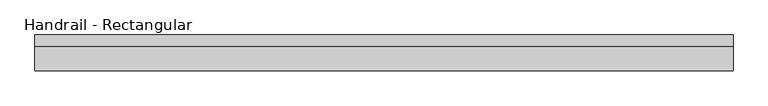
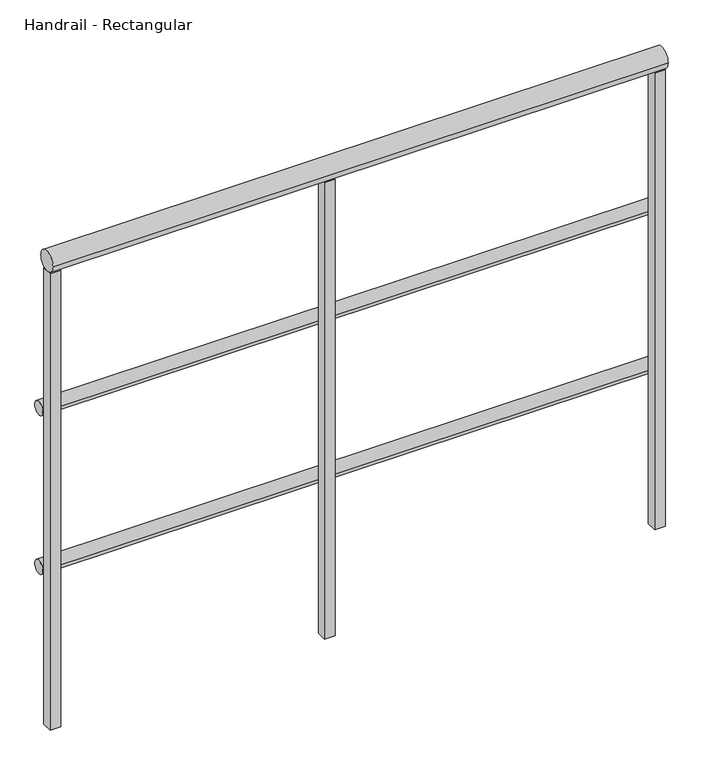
"""IFC4 building model written with IfcOpenShell, lengths in millimetres: railing geometry, Handrail - Rectangular."""

from ifc_helpers import new_model, si_unit, point, frame, frame_2d, origin, place, context, project, spatial, polyline, circle_curve, trimmed, segment, composite_curve, outline, extrude, source, transform, mapped, element, save


def handrail_rectangular_3d0c2979(model_context):
    return source(origin(), model_context, "Body", "SweptSolid", [
        extrude(outline(composite_curve([segment(trimmed(circle_curve(frame_2d((-27958.5683133, 9740.9)), 12.7), [point((-27945.8683133, 9740.9))], [point((-27971.2683133, 9740.9))], False, "CARTESIAN"), True, "CONTINUOUS"), segment(trimmed(circle_curve(frame_2d((-27958.5683133, 9740.9)), 12.7), [point((-27971.2683133, 9740.9))], [point((-27945.8683133, 9740.9))], False, "CARTESIAN"), True, "CONTINUOUS")], self_intersect=False)), frame((976.3410437, 0.0, 0.0), z_axis=(1.0, 0.0, 0.0), x_axis=(0.0, 1.0, 0.0)), (0.0, 0.0, 1.0), 1117.6),
        extrude(outline(composite_curve([segment(trimmed(circle_curve(frame_2d((-27958.5683133, 9436.1)), 12.7), [point((-27945.8683133, 9436.1))], [point((-27971.2683133, 9436.1))], False, "CARTESIAN"), True, "CONTINUOUS"), segment(trimmed(circle_curve(frame_2d((-27958.5683133, 9436.1)), 12.7), [point((-27971.2683133, 9436.1))], [point((-27945.8683133, 9436.1))], False, "CARTESIAN"), True, "CONTINUOUS")], self_intersect=False)), frame((976.3410437, 0.0, 0.0), z_axis=(1.0, 0.0, 0.0), x_axis=(0.0, 1.0, 0.0)), (0.0, 0.0, 1.0), 1117.6),
        extrude(outline(composite_curve([segment(trimmed(circle_curve(frame_2d((-27983.9683133, 10039.35)), 19.05), [point((-27964.9183133, 10039.35))], [point((-28003.0183133, 10039.35))], False, "CARTESIAN"), True, "CONTINUOUS"), segment(trimmed(circle_curve(frame_2d((-27983.9683133, 10039.35)), 19.05), [point((-28003.0183133, 10039.35))], [point((-27964.9183133, 10039.35))], False, "CARTESIAN"), True, "CONTINUOUS")], self_intersect=False)), frame((976.3410437, 0.0, 0.0), z_axis=(1.0, 0.0, 0.0), x_axis=(0.0, 1.0, 0.0)), (0.0, 0.0, 1.0), 1117.6),
        extrude(outline(polyline([(1493.8660437, -27993.4933133), (1474.8160437, -27993.4933133), (1474.8160437, -27974.4433133), (1493.8660437, -27974.4433133), (1493.8660437, -27993.4933133)])), frame((0.0, 0.0, 9144.0), z_axis=(0.0, 0.0, 1.0), x_axis=(1.0, 0.0, 0.0)), (0.0, 0.0, 1.0), 876.3),
        extrude(outline(polyline([(995.3910437, -27993.4933133), (976.3410437, -27993.4933133), (976.3410437, -27974.4433133), (995.3910437, -27974.4433133), (995.3910437, -27993.4933133)])), frame((0.0, 0.0, 9144.0), z_axis=(0.0, 0.0, 1.0), x_axis=(1.0, 0.0, 0.0)), (0.0, 0.0, 1.0), 876.3),
        extrude(outline(polyline([(2093.9410437, -27993.4933133), (2074.8910437, -27993.4933133), (2074.8910437, -27974.4433133), (2093.9410437, -27974.4433133), (2093.9410437, -27993.4933133)])), frame((0.0, 0.0, 9144.0), z_axis=(0.0, 0.0, 1.0), x_axis=(1.0, 0.0, 0.0)), (0.0, 0.0, 1.0), 876.3),
    ])


if __name__ == "__main__":
    model = new_model("IFC4")
    model_context = context("Model", 3, world=origin())
    ifc_project = project(units=[si_unit("LENGTHUNIT", "METRE", prefix="MILLI")], contexts=[model_context])
    site = spatial("IfcSite", under=ifc_project)
    building = spatial("IfcBuilding", under=site)
    placement = place(None, origin())
    handrail_rectangular_shape = handrail_rectangular_3d0c2979(model_context)
    element("IfcRailing", 1, ObjectType="Handrail - Rectangular", at=placement, inside=building, context=model_context, shape_type="MappedRepresentation", body=[
        mapped(handrail_rectangular_shape, transform((0.0, 0.0, 0.0), x_axis=(1.0, 0.0, 0.0), y_axis=(0.0, 1.0, 0.0), z_axis=(0.0, 0.0, 1.0))),
    ])
    save(model, "model.ifc")
